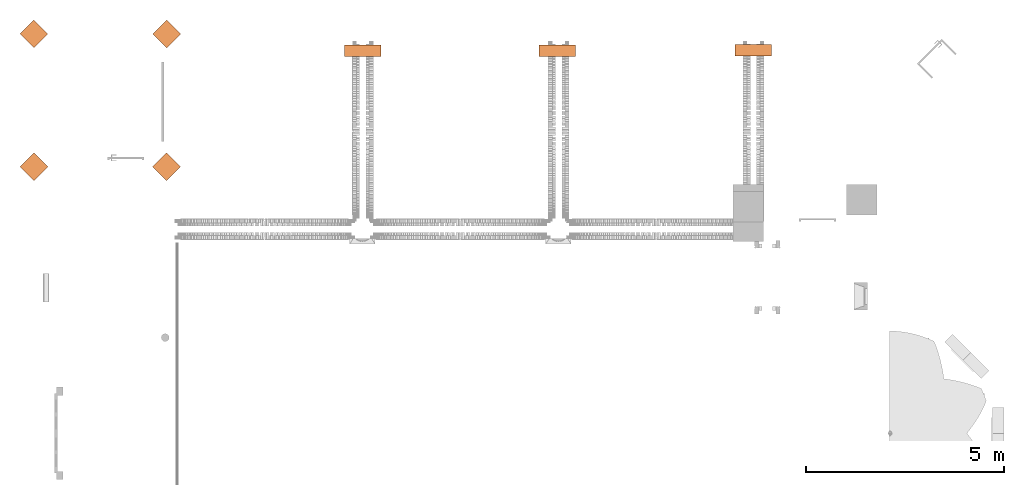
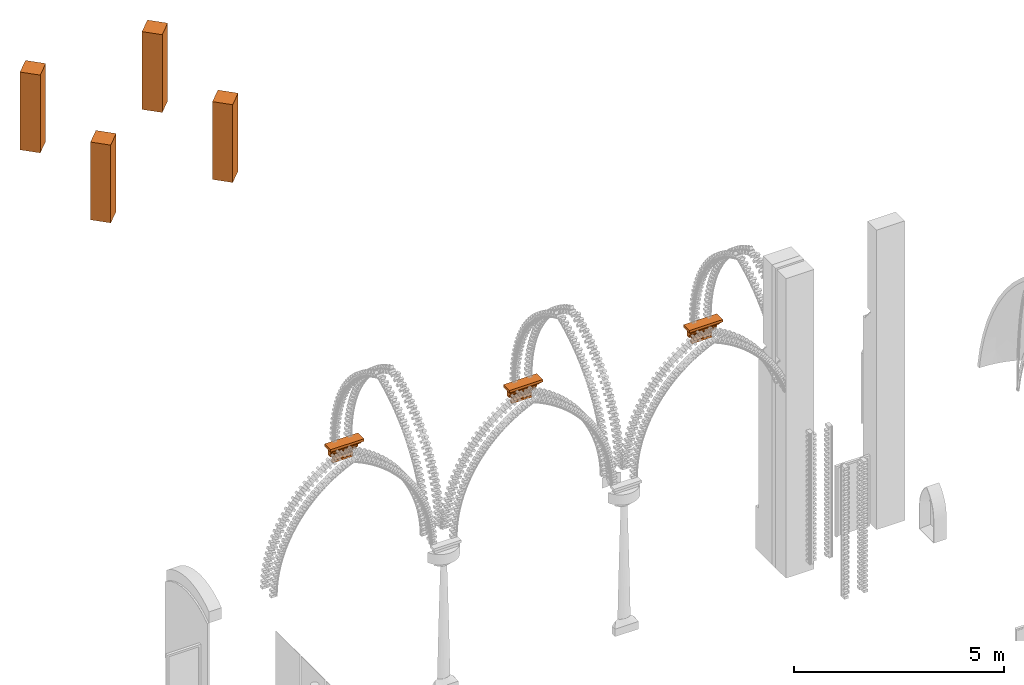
# One storey, part 6 of 6: 7 proxies.
"""IFC2X3 building model written with IfcOpenShell, lengths in metres."""

from ifc_helpers import new_model, entity, si_unit, converted_unit, derived_unit, direction, frame, frame_2d, origin, origin_2d_with_axis, place, context, subcontext, project, spatial, polyline, circle_curve, parameter, trimmed, segment, composite_curve, rectangle, outline, extrude, source, transform, mapped, material, material_list, type_object, type_shapes, element, save


model = new_model("IFC2X3")

# Units and contexts
model_context = context("Model", 3, precision=1e-05, world=origin(), true_north=direction((6.12303176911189e-17, 1.0)))
plan_context = context("Plan", 3, precision=1e-05, world=origin(), true_north=direction((6.12303176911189e-17, 1.0)))
body_context = subcontext(model_context, "Body", "Model", "MODEL_VIEW")
ifc_project = project(units=[si_unit("LENGTHUNIT", "METRE"), si_unit("AREAUNIT", "SQUARE_METRE"), si_unit("VOLUMEUNIT", "CUBIC_METRE"), converted_unit("PLANEANGLEUNIT", "DEGREE", entity("IfcRatioMeasure", 0.0174532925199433), si_unit("PLANEANGLEUNIT", "RADIAN"), dimensions=[0, 0, 0, 0, 0, 0, 0]), si_unit("MASSUNIT", "GRAM", prefix="KILO"), derived_unit("MASSDENSITYUNIT", [(si_unit("MASSUNIT", "GRAM", prefix="KILO"), 1), (si_unit("LENGTHUNIT", "METRE"), -3)]), derived_unit("MOMENTOFINERTIAUNIT", [(si_unit("LENGTHUNIT", "METRE"), 4)]), si_unit("TIMEUNIT", "SECOND"), si_unit("FREQUENCYUNIT", "HERTZ"), si_unit("THERMODYNAMICTEMPERATUREUNIT", "DEGREE_CELSIUS"), derived_unit("THERMALTRANSMITTANCEUNIT", [(si_unit("MASSUNIT", "GRAM", prefix="KILO"), 1), (si_unit("THERMODYNAMICTEMPERATUREUNIT", "KELVIN"), -1), (si_unit("TIMEUNIT", "SECOND"), -3)]), derived_unit("VOLUMETRICFLOWRATEUNIT", [(si_unit("LENGTHUNIT", "METRE"), 3), (si_unit("TIMEUNIT", "SECOND"), -1)]), derived_unit("MASSFLOWRATEUNIT", [(si_unit("MASSUNIT", "GRAM", prefix="KILO"), 1), (si_unit("TIMEUNIT", "SECOND"), -1)]), derived_unit("ROTATIONALFREQUENCYUNIT", [(si_unit("TIMEUNIT", "SECOND"), -1)]), si_unit("ELECTRICCURRENTUNIT", "AMPERE"), si_unit("ELECTRICVOLTAGEUNIT", "VOLT"), si_unit("POWERUNIT", "WATT"), si_unit("FORCEUNIT", "NEWTON", prefix="KILO"), si_unit("ILLUMINANCEUNIT", "LUX"), si_unit("LUMINOUSFLUXUNIT", "LUMEN"), si_unit("LUMINOUSINTENSITYUNIT", "CANDELA"), derived_unit("USERDEFINED", [(si_unit("MASSUNIT", "GRAM", prefix="KILO"), -1), (si_unit("LENGTHUNIT", "METRE"), -2), (si_unit("TIMEUNIT", "SECOND"), 3), (si_unit("LUMINOUSFLUXUNIT", "LUMEN"), 1)]), derived_unit("SOUNDPOWERUNIT", [(si_unit("MASSUNIT", "GRAM", prefix="KILO"), 1), (si_unit("LENGTHUNIT", "METRE"), 2), (si_unit("TIMEUNIT", "SECOND"), -3)]), derived_unit("SOUNDPRESSUREUNIT", [(si_unit("MASSUNIT", "GRAM", prefix="KILO"), 1), (si_unit("LENGTHUNIT", "METRE"), -1), (si_unit("TIMEUNIT", "SECOND"), -2)]), derived_unit("LINEARVELOCITYUNIT", [(si_unit("LENGTHUNIT", "METRE"), 1), (si_unit("TIMEUNIT", "SECOND"), -1)]), si_unit("PRESSUREUNIT", "PASCAL"), derived_unit("USERDEFINED", [(si_unit("LENGTHUNIT", "METRE"), -2), (si_unit("MASSUNIT", "GRAM", prefix="KILO"), 1), (si_unit("TIMEUNIT", "SECOND"), -2)]), derived_unit("LINEARFORCEUNIT", [(si_unit("MASSUNIT", "GRAM", prefix="KILO"), 1), (si_unit("LENGTHUNIT", "METRE"), 1), (si_unit("TIMEUNIT", "SECOND"), -2), (si_unit("LENGTHUNIT", "METRE"), -1)]), derived_unit("PLANARFORCEUNIT", [(si_unit("MASSUNIT", "GRAM", prefix="KILO"), 1), (si_unit("LENGTHUNIT", "METRE"), 1), (si_unit("TIMEUNIT", "SECOND"), -2), (si_unit("LENGTHUNIT", "METRE"), -2)])], contexts=[model_context, plan_context])

# Site, building, storey
site_placement = place(None, frame((-11.0823275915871, 23.8300534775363, 0.0)))
site = spatial("IfcSite", under=ifc_project, at=site_placement, Name="Default", CompositionType="ELEMENT")
building_placement = place(site_placement, origin())
building = spatial("IfcBuilding", under=site, at=building_placement, Name="Englische Kirche", CompositionType="ELEMENT")
storey_placement = place(building_placement, origin())
storey = spatial("IfcBuildingStorey", under=building, at=storey_placement, Name="Ebene 0 Nave FFL Phase 1 1864", CompositionType="ELEMENT", Elevation=0.0)

# Proxies
ifc_material_1 = material(Name="Quoin Brick")
ifc_material_list_1 = material_list([ifc_material_1, ifc_material_1, ifc_material_1, ifc_material_1, ifc_material_1, ifc_material_1, ifc_material_1, ifc_material_1, ifc_material_1])
ifc_material_list_2 = material_list([ifc_material_1, ifc_material_1, ifc_material_1, ifc_material_1, ifc_material_1, ifc_material_1, ifc_material_1, ifc_material_1, ifc_material_1])
building_element_proxy_type_1 = type_object("IfcBuildingElementProxyType", Name="WallCorbelStage2:WallCorbelStage2", PredefinedType="NOTDEFINED", material=ifc_material_list_2)
shared_shape_1 = source(origin(), body_context, "Body", "SweptSolid", [
    extrude(rectangle(XDim=0.919999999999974, YDim=0.285000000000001, at=origin_2d_with_axis()), frame((0.0287770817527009, -0.142499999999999, 4.038)), (0.0, 0.0, 1.0), 0.0719999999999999),
    extrude(rectangle(XDim=0.859999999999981, YDim=0.255000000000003, at=frame_2d((0.0, -3.60822483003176e-16), x_axis=(1.0, 0.0))), frame((0.0287770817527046, -0.1275, 4.008)), (0.0, 0.0, 1.0), 0.0299999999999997),
    extrude(rectangle(XDim=0.809999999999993, YDim=0.23, at=origin_2d_with_axis()), frame((0.0287770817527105, -0.115000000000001, 3.968)), (0.0, 0.0, 1.0), 0.0400000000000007),
    extrude(outline(composite_curve([segment(polyline([(-0.0160000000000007, -0.0500000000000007), (0.0640000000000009, -0.0500000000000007)]), True, "CONTINUOUS"), segment(polyline([(0.0640000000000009, -0.0500000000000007), (0.0640000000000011, 0.0549999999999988)]), True, "CONTINUOUS"), segment(polyline([(0.0640000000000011, 0.0549999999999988), (-0.0560000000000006, 0.0549999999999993)]), True, "CONTINUOUS"), segment(polyline([(-0.0560000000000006, 0.0549999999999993), (-0.0560000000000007, -0.0100000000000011)]), True, "CONTINUOUS"), segment(trimmed(circle_curve(frame_2d((-0.0160000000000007, -0.0100000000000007), x_axis=(1.0, 0.0)), 0.04), [parameter(180.0)], [parameter(270.0)], True, "PARAMETER"), True, "CONTINUOUS")], self_intersect=False)), frame((-0.223722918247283, -0.0639999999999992, 3.656), z_axis=(1.0, 0.0, 0.0), x_axis=(0.0, 1.0, 0.0)), (0.0, 0.0, 1.0), 0.505),
    extrude(outline(composite_curve([segment(polyline([(-0.103, -0.0549685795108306), (0.0819999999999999, -0.0549685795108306)]), True, "CONTINUOUS"), segment(polyline([(0.0819999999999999, -0.0549685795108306), (0.082, 0.0099790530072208)]), True, "CONTINUOUS"), segment(trimmed(circle_curve(frame_2d((0.042, 0.0099790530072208), x_axis=(-1.0, 0.0)), 0.04), [parameter(180.0)], [parameter(270.0)], True, "PARAMETER"), True, "CONTINUOUS"), segment(polyline([(0.0420000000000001, 0.0499790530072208), (-0.103, 0.0499790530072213)]), True, "CONTINUOUS"), segment(polyline([(-0.103, 0.0499790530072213), (-0.103, -0.0549685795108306)]), True, "CONTINUOUS")], self_intersect=False)), frame((-0.331222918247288, -0.102999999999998, 3.91303142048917), z_axis=(1.0, 0.0, 0.0), x_axis=(0.0, -1.0, 0.0)), (0.0, 0.0, 1.0), 0.72),
    extrude(rectangle(XDim=0.72, YDim=0.145, at=frame_2d((6.93889390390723e-16, 0.0), x_axis=(1.0, 0.0))), frame((0.0287770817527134, -0.0724999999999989, 3.823)), (0.0, 0.0, 1.0), 0.0400000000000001),
    extrude(rectangle(XDim=0.72, YDim=0.100000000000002, at=frame_2d((0.0, -2.8796409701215e-16), x_axis=(1.0, 0.0))), frame((0.0287770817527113, -0.0499999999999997, 3.751)), (0.0, 0.0, 1.0), 0.0719999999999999),
    extrude(rectangle(XDim=0.56, YDim=0.0800000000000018, at=frame_2d((0.0, -2.18575157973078e-16), x_axis=(1.0, 0.0))), frame((0.0287770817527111, -0.0399999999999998, 3.711)), (0.0, 0.0, 1.0), 0.0399999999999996),
    extrude(rectangle(XDim=0.56, YDim=0.0800000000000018, at=frame_2d((2.77555756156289e-17, -2.18575157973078e-16), x_axis=(1.0, 0.0))), frame((0.0287770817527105, -0.0399999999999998, 3.534)), (0.0, 0.0, 1.0), 0.0719999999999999),
])
type_shapes(building_element_proxy_type_1, [shared_shape_1])
proxy_1_placement = place(storey_placement, frame((12.5766776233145, 14.678718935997, 0.227999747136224)))
element("IfcBuildingElementProxy", 1, at=proxy_1_placement, inside=storey, type_object=building_element_proxy_type_1, material=ifc_material_list_1, Name="WallCorbelStage2:WallCorbelStage2", ObjectType="WallCorbelStage2:WallCorbelStage2", context=body_context, shape_type="MappedRepresentation", body=[
    mapped(shared_shape_1, transform((0.0, 0.0, 0.0), scale=1.0)),
])
for number, where, name in (
    (2, (7.65663648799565, 14.6787189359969, 0.228000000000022), "WallCorbelStage2:WallCorbelStage2"),
    (3, (17.5366776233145, 14.6899809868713, 0.22800000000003), "WallCorbelStage2:WallCorbelStage2"),
):
    element("IfcBuildingElementProxy", number, at=place(storey_placement, frame(where)), inside=storey, type_object=building_element_proxy_type_1, material=ifc_material_1, Name=name, ObjectType="WallCorbelStage2:WallCorbelStage2", context=body_context, shape_type="MappedRepresentation", body=[
        mapped(shared_shape_1, transform((0.0, 0.0, 0.0), scale=1.0)),
    ])
ifc_material_2 = material(Name="Mauerwerk - Sandstein Rot")
ifc_material_3 = material(Name="Mauerwerk - Sichtmauerwerk_72x265 english bond Stage2")
ifc_material_list_3 = material_list([ifc_material_2, ifc_material_3])
ifc_material_list_4 = material_list([ifc_material_2, ifc_material_3])
building_element_proxy_type_2 = type_object("IfcBuildingElementProxyType", Name="Tower_finial:Tower_finial", PredefinedType="NOTDEFINED", material=ifc_material_list_4)
shared_shape_2 = source(origin(), body_context, "Body", "SweptSolid", [
    extrude(rectangle(XDim=0.500000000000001, YDim=0.500000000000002, at=origin_2d_with_axis()), frame((0.0, 0.0, 1.295), z_axis=(0.0, 0.0, 1.0), x_axis=(-1.0, 0.0, 0.0)), (0.0, 0.0, 1.0), 0.967926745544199),
    extrude(rectangle(XDim=0.500000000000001, YDim=0.500000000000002, at=origin_2d_with_axis()), frame((0.0, 0.0, 0.0), z_axis=(0.0, 0.0, 1.0), x_axis=(-1.0, 0.0, 0.0)), (0.0, 0.0, 1.0), 1.295),
])
type_shapes(building_element_proxy_type_2, [shared_shape_2])
proxy_2_placement = place(storey_placement, frame((2.72064193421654, 14.9601655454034, 15.594), z_axis=(0.0, 0.0, 1.0), x_axis=(0.707106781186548, -0.707106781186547, 0.0)))
element("IfcBuildingElementProxy", 4, at=proxy_2_placement, inside=storey, type_object=building_element_proxy_type_2, material=ifc_material_list_3, Name="Tower_finial:Tower_finial", ObjectType="Tower_finial:Tower_finial", context=body_context, shape_type="MappedRepresentation", body=[
    mapped(shared_shape_2, transform((0.0, 0.0, 0.0), scale=1.0)),
])
ifc_material_list_5 = material_list([ifc_material_2, ifc_material_3])
proxy_3_placement = place(storey_placement, frame((-0.634727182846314, 11.6022723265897, 15.594), z_axis=(0.0, 0.0, 1.0), x_axis=(-0.707106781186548, 0.707106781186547, 0.0)))
element("IfcBuildingElementProxy", 5, at=proxy_3_placement, inside=storey, type_object=building_element_proxy_type_2, material=ifc_material_list_5, Name="Tower_finial:Tower_finial", ObjectType="Tower_finial:Tower_finial", context=body_context, shape_type="MappedRepresentation", body=[
    mapped(shared_shape_2, transform((0.0, 0.0, 0.0), scale=1.0)),
])
ifc_material_list_6 = material_list([ifc_material_2, ifc_material_3])
ifc_material_list_7 = material_list([ifc_material_2, ifc_material_3])
building_element_proxy_type_3 = type_object("IfcBuildingElementProxyType", Name="Tower_finial:Tower_finial", PredefinedType="NOTDEFINED", material=ifc_material_list_7)
shared_shape_3 = source(origin(), body_context, "Body", "SweptSolid", [
    extrude(rectangle(XDim=0.500000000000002, YDim=0.500000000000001, at=frame_2d((0.0, 5.55111512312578e-17), x_axis=(1.0, 0.0))), frame((0.0, 0.0, 1.295), z_axis=(0.0, 0.0, 1.0), x_axis=(0.0, 1.0, 0.0)), (0.0, 0.0, 1.0), 0.967926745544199),
    extrude(rectangle(XDim=0.500000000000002, YDim=0.500000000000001, at=frame_2d((0.0, 5.55111512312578e-17), x_axis=(1.0, 0.0))), frame((0.0, 0.0, 0.0), z_axis=(0.0, 0.0, 1.0), x_axis=(0.0, 1.0, 0.0)), (0.0, 0.0, 1.0), 1.295),
])
type_shapes(building_element_proxy_type_3, [shared_shape_3])
proxy_4_placement = place(storey_placement, frame((-0.634727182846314, 14.9601655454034, 15.594), z_axis=(0.0, 0.0, 1.0), x_axis=(-0.707106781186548, -0.707106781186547, 0.0)))
element("IfcBuildingElementProxy", 6, at=proxy_4_placement, inside=storey, type_object=building_element_proxy_type_3, material=ifc_material_list_6, Name="Tower_finial:Tower_finial", ObjectType="Tower_finial:Tower_finial", context=body_context, shape_type="MappedRepresentation", body=[
    mapped(shared_shape_3, transform((0.0, 0.0, 0.0), scale=1.0)),
])
ifc_material_list_8 = material_list([ifc_material_2, ifc_material_3])
proxy_5_placement = place(storey_placement, frame((2.72064193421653, 11.6022723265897, 15.594), z_axis=(0.0, 0.0, 1.0), x_axis=(0.707106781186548, 0.707106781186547, 0.0)))
element("IfcBuildingElementProxy", 7, at=proxy_5_placement, inside=storey, type_object=building_element_proxy_type_3, material=ifc_material_list_8, Name="Tower_finial:Tower_finial", ObjectType="Tower_finial:Tower_finial", context=body_context, shape_type="MappedRepresentation", body=[
    mapped(shared_shape_3, transform((0.0, 0.0, 0.0), scale=1.0)),
])

save(model, "model.ifc")
